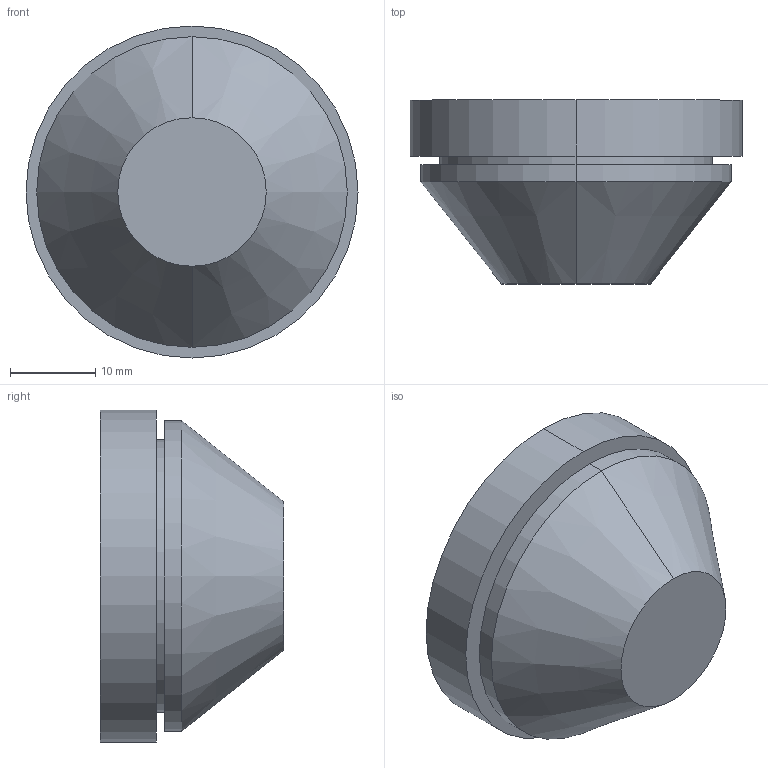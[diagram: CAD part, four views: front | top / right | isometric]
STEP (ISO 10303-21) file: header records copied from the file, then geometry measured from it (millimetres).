
FILE_DESCRIPTION (( 'STEP AP203' ), '1' );
FILE_NAME ('100227.STEP', '2012-10-25T05:10:38', ( 'Joni' ), ( 'Hewlett-Packard Company' ), 'SwSTEP 2.0', 'SolidWorks 2012', '' );
FILE_SCHEMA (( 'CONFIG_CONTROL_DESIGN' ));
Length unit declared in the file: millimetre
Products named in the file (1): 100227
Bounding box: 39 x 21.6 x 39 mm (x, y, z)
Volume: 17924 mm3; surface area: 4503 mm2
Topology: 1 solids, 1 shells, 12 faces, 22 edges, 14 vertices
Faces by surface type: cylinder 6, plane 4, cone 2
Entity records: 381 total; most frequent: DIRECTION 62, CARTESIAN_POINT 49, ORIENTED_EDGE 44, AXIS2_PLACEMENT_3D 27, EDGE_CURVE 22, EDGE_LOOP 14, VERTEX_POINT 14, CIRCLE 14
